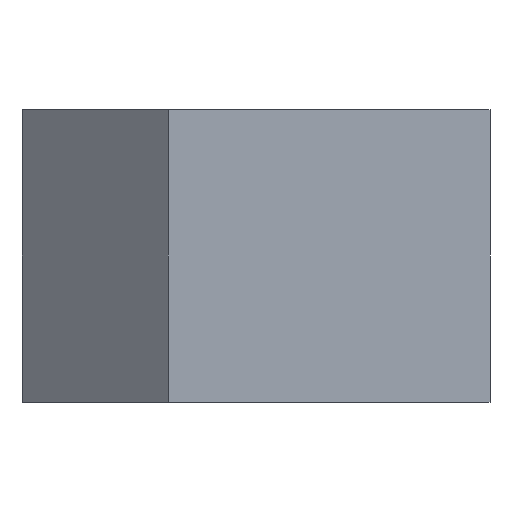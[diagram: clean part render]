
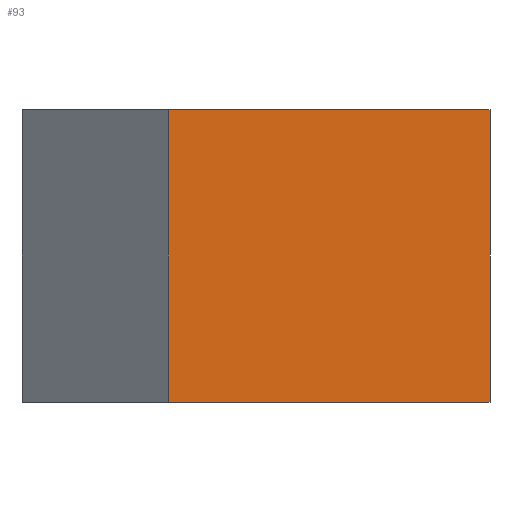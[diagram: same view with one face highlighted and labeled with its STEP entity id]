
A CAD part, left-side view. The second image highlights one B-rep face of the part: STEP entity #93.
In plain terms, the highlighted planar face has unit normal (-1, 0, 0).
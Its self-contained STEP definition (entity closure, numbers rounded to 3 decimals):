
#93=ADVANCED_FACE('',(#153),#154,.T.);
#153=FACE_OUTER_BOUND('',#225,.T.);
#154=PLANE('',#226);
#225=EDGE_LOOP('',(#420,#421,#422,#423));
#226=AXIS2_PLACEMENT_3D('',#424,#425,#426);
#420=ORIENTED_EDGE('',*,*,#585,.T.);
#421=ORIENTED_EDGE('',*,*,#566,.F.);
#422=ORIENTED_EDGE('',*,*,#586,.F.);
#423=ORIENTED_EDGE('',*,*,#583,.T.);
#424=CARTESIAN_POINT('',(-300.0,82.5,0.0));
#425=DIRECTION('',(-1.0,-0.0,0.0));
#426=DIRECTION('',(0.0,-1.0,-0.0));
#566=EDGE_CURVE('',#676,#671,#678,.T.);
#583=EDGE_CURVE('',#706,#704,#707,.T.);
#585=EDGE_CURVE('',#704,#671,#709,.T.);
#586=EDGE_CURVE('',#706,#676,#710,.T.);
#671=VERTEX_POINT('',#835);
#676=VERTEX_POINT('',#842);
#678=LINE('',#845,#846);
#704=VERTEX_POINT('',#887);
#706=VERTEX_POINT('',#890);
#707=LINE('',#891,#892);
#709=LINE('',#895,#896);
#710=LINE('',#897,#898);
#835=CARTESIAN_POINT('',(-300.0,165.0,150.0));
#842=CARTESIAN_POINT('',(-300.0,165.0,0.0));
#845=CARTESIAN_POINT('',(-300.0,165.0,0.0));
#846=VECTOR('',#1018,1.0);
#887=CARTESIAN_POINT('',(-300.0,0.0,150.0));
#890=CARTESIAN_POINT('',(-300.0,0.0,0.0));
#891=CARTESIAN_POINT('',(-300.0,0.0,0.0));
#892=VECTOR('',#1035,1.0);
#895=CARTESIAN_POINT('',(-300.0,0.0,150.0));
#896=VECTOR('',#1037,1.0);
#897=CARTESIAN_POINT('',(-300.0,0.0,0.0));
#898=VECTOR('',#1038,1.0);
#1018=DIRECTION('',(0.0,0.0,1.0));
#1035=DIRECTION('',(0.0,0.0,1.0));
#1037=DIRECTION('',(0.0,1.0,0.0));
#1038=DIRECTION('',(0.0,1.0,0.0));
